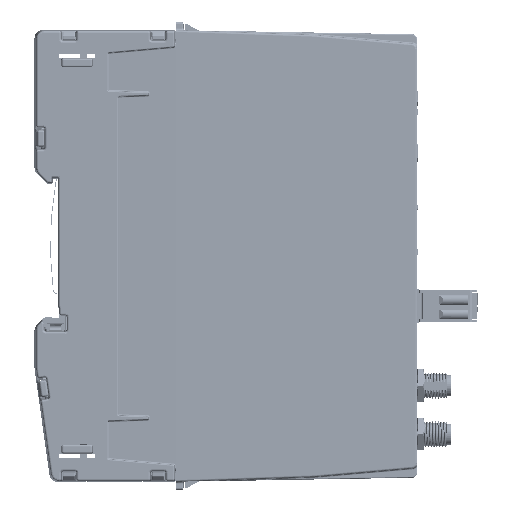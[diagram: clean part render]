
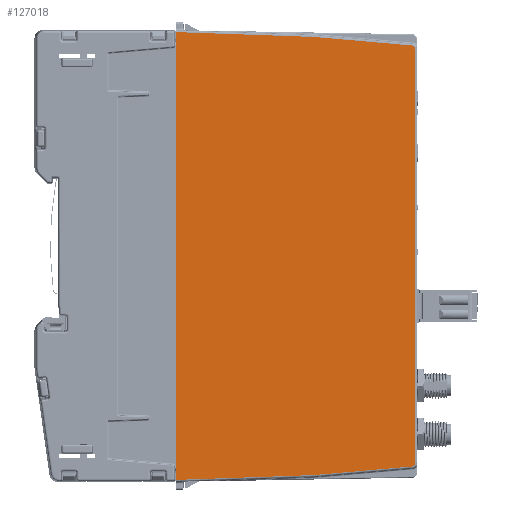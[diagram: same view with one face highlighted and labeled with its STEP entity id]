
A CAD part, left-side view. The second image highlights one B-rep face of the part: STEP entity #127018.
In plain terms, the highlighted planar face has unit normal (-1, -0.018, 0).
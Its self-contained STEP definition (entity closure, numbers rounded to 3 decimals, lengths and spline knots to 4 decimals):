
#12420=FACE_OUTER_BOUND('',#19400,.T.);
#19400=EDGE_LOOP('',(#99239,#99240,#99241,#99242,#99243,#99244,#99245,#99246,
#99247,#99248));
#29398=LINE('',#243574,#41418);
#29714=LINE('',#244835,#41734);
#29715=LINE('',#244837,#41735);
#29716=LINE('',#244839,#41736);
#29717=LINE('',#244841,#41737);
#29718=LINE('',#244843,#41738);
#29719=LINE('',#244847,#41739);
#29720=LINE('',#244850,#41740);
#41418=VECTOR('',#159451,39.3701);
#41734=VECTOR('',#160139,39.3701);
#41735=VECTOR('',#160140,39.3701);
#41736=VECTOR('',#160141,39.3701);
#41737=VECTOR('',#160142,39.3701);
#41738=VECTOR('',#160143,39.3701);
#41739=VECTOR('',#160146,39.3701);
#41740=VECTOR('',#160149,39.3701);
#47480=ELLIPSE('',#135906,0.0315,0.0315);
#47481=ELLIPSE('',#135907,0.0315,0.0315);
#54929=VERTEX_POINT('',#243571);
#54930=VERTEX_POINT('',#243573);
#55210=VERTEX_POINT('',#244834);
#55211=VERTEX_POINT('',#244836);
#55212=VERTEX_POINT('',#244838);
#55213=VERTEX_POINT('',#244840);
#55214=VERTEX_POINT('',#244842);
#55215=VERTEX_POINT('',#244844);
#55216=VERTEX_POINT('',#244846);
#55217=VERTEX_POINT('',#244848);
#70197=EDGE_CURVE('',#54930,#54929,#29398,.T.);
#70618=EDGE_CURVE('',#54929,#55210,#29714,.T.);
#70619=EDGE_CURVE('',#55211,#55210,#29715,.T.);
#70620=EDGE_CURVE('',#55211,#55212,#29716,.T.);
#70621=EDGE_CURVE('',#55212,#55213,#29717,.T.);
#70622=EDGE_CURVE('',#55213,#55214,#29718,.T.);
#70623=EDGE_CURVE('',#55214,#55215,#47480,.T.);
#70624=EDGE_CURVE('',#55215,#55216,#29719,.T.);
#70625=EDGE_CURVE('',#55216,#55217,#47481,.T.);
#70626=EDGE_CURVE('',#55217,#54930,#29720,.T.);
#99239=ORIENTED_EDGE('',*,*,#70197,.T.);
#99240=ORIENTED_EDGE('',*,*,#70618,.T.);
#99241=ORIENTED_EDGE('',*,*,#70619,.F.);
#99242=ORIENTED_EDGE('',*,*,#70620,.T.);
#99243=ORIENTED_EDGE('',*,*,#70621,.T.);
#99244=ORIENTED_EDGE('',*,*,#70622,.T.);
#99245=ORIENTED_EDGE('',*,*,#70623,.T.);
#99246=ORIENTED_EDGE('',*,*,#70624,.T.);
#99247=ORIENTED_EDGE('',*,*,#70625,.T.);
#99248=ORIENTED_EDGE('',*,*,#70626,.T.);
#114893=PLANE('',#135905);
#127018=ADVANCED_FACE('',(#12420),#114893,.T.);
#135905=AXIS2_PLACEMENT_3D('',#244833,#160137,#160138);
#135906=AXIS2_PLACEMENT_3D('',#244845,#160144,#160145);
#135907=AXIS2_PLACEMENT_3D('',#244849,#160147,#160148);
#159451=DIRECTION('',(-0.017,0.999,0.035));
#160137=DIRECTION('center_axis',(-1.,-0.017,
0.));
#160138=DIRECTION('ref_axis',(-0.017,1.,0.));
#160139=DIRECTION('',(0.,0.,-1.));
#160140=DIRECTION('',(0.,0.,1.));
#160141=DIRECTION('',(0.,0.,-1.));
#160142=DIRECTION('',(0.017,-0.999,0.035));
#160143=DIRECTION('',(0.017,-0.996,0.087));
#160144=DIRECTION('center_axis',(-1.,-0.017,
0.));
#160145=DIRECTION('ref_axis',(0.017,-1.,0.));
#160146=DIRECTION('',(0.,0.,1.));
#160147=DIRECTION('center_axis',(-1.,-0.017,
0.));
#160148=DIRECTION('ref_axis',(0.017,-1.,0.));
#160149=DIRECTION('',(-0.017,0.996,0.087));
#243571=CARTESIAN_POINT('',(-0.0227,-0.8686,0.1083));
#243573=CARTESIAN_POINT('',(0.0007,-2.2063,0.0616));
#243574=CARTESIAN_POINT('',(-0.0282,-0.5512,0.1194));
#244833=CARTESIAN_POINT('Origin',(-0.0295,-0.4749,
-2.0669));
#244834=CARTESIAN_POINT('',(-0.0227,-0.8686,-0.0312));
#244835=CARTESIAN_POINT('',(-0.0227,-0.8686,0.128));
#244836=CARTESIAN_POINT('',(-0.0227,-0.8686,-4.1027));
#244837=CARTESIAN_POINT('',(-0.0227,-0.8686,-7.5932));
#244838=CARTESIAN_POINT('',(-0.0227,-0.8686,-4.2421));
#244839=CARTESIAN_POINT('',(-0.0227,-0.8686,0.128));
#244840=CARTESIAN_POINT('',(0.0007,-2.2063,-4.1954));
#244841=CARTESIAN_POINT('',(-0.0282,-0.5512,-4.2532));
#244842=CARTESIAN_POINT('',(0.0174,-3.163,-4.1117));
#244843=CARTESIAN_POINT('',(-0.0261,-0.6728,-4.3296));
#244844=CARTESIAN_POINT('',(0.0179,-3.1918,-4.0803));
#244845=CARTESIAN_POINT('Origin',(0.0173,-3.1603,-4.0803));
#244846=CARTESIAN_POINT('',(0.0179,-3.1918,-0.0535));
#244847=CARTESIAN_POINT('',(0.0179,-3.1918,-0.0535));
#244848=CARTESIAN_POINT('',(0.0174,-3.163,-0.0221));
#244849=CARTESIAN_POINT('Origin',(0.0173,-3.1603,
-0.0535));
#244850=CARTESIAN_POINT('',(-0.0261,-0.6728,0.1957));
